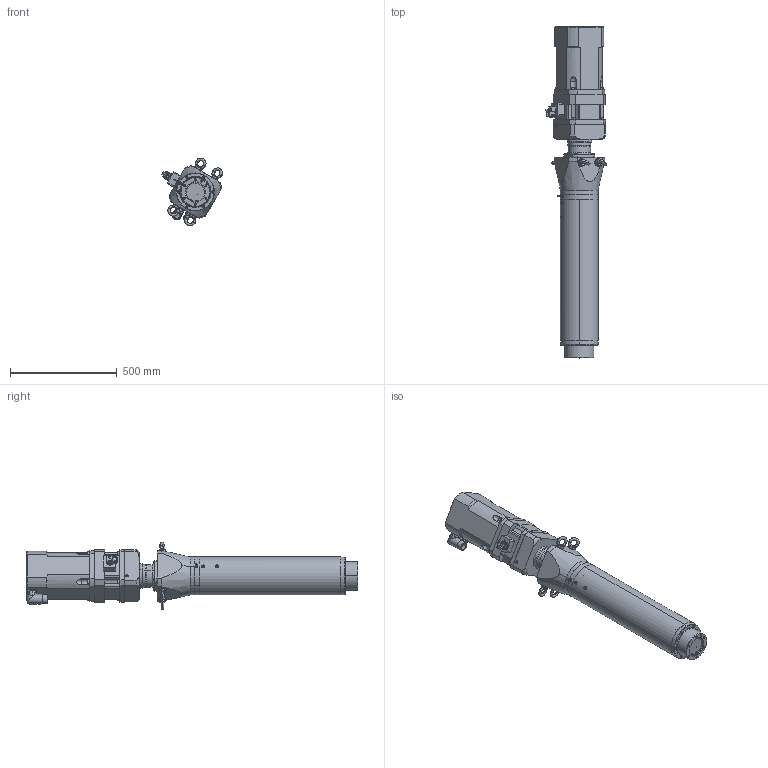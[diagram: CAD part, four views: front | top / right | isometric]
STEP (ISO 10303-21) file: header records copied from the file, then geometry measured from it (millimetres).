
FILE_DESCRIPTION (( 'STEP AP214' ), '1' );
FILE_NAME ('RLWIK060D-035-025SG0.STEP', '2023-04-06T05:29:39', ( '' ), ( '' ), 'SwSTEP 2.0', 'SolidWorks 2021', '' );
FILE_SCHEMA (( 'AUTOMOTIVE_DESIGN' ));
Length unit declared in the file: millimetre
Products named in the file (1): RLWIK060D-035-025SG0
Bounding box: 284.62 x 1553.5 x 316.86 mm (x, y, z)
Volume: 34617378.1 mm3; surface area: 2420612.6 mm2
Topology: 39 solids, 39 shells, 1506 faces, 3559 edges, 2122 vertices
Faces by surface type: cylinder 566, plane 506, cone 246, torus 112, bspline 74, sphere 2
Entity records: 65124 total; most frequent: CARTESIAN_POINT 13689, DIRECTION 7595, ORIENTED_EDGE 6798, EDGE_CURVE 3399, AXIS2_PLACEMENT_3D 3015, VERTEX_POINT 2122, EDGE_LOOP 1755, CIRCLE 1582
